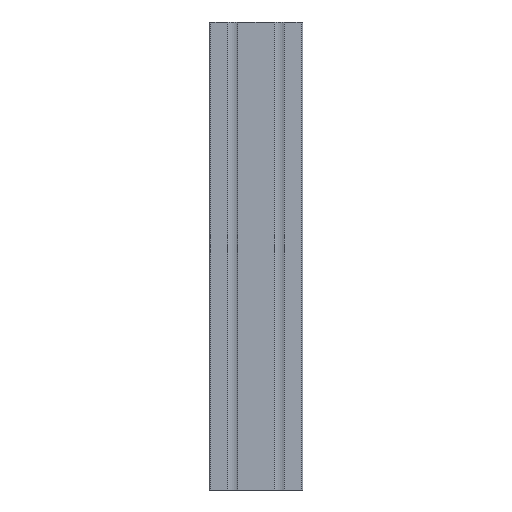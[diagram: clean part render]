
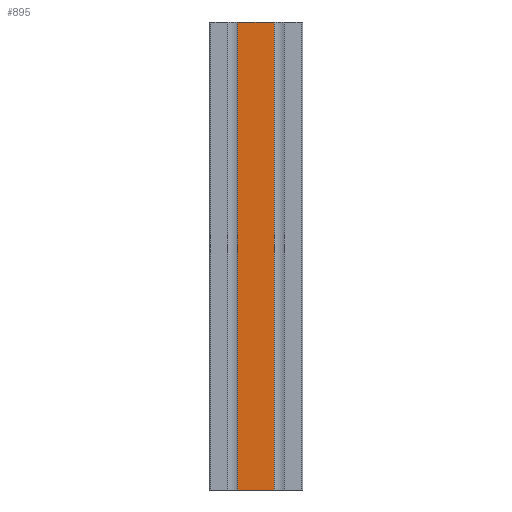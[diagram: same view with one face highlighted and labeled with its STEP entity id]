
A CAD part, left-side view. The second image highlights one B-rep face of the part: STEP entity #895.
In plain terms, the highlighted planar face has unit normal (-1, 0, 0).
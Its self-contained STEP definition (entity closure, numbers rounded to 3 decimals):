
#2 = CARTESIAN_POINT ( 'NONE',  ( -30., -11.75, 150. ) ) ;
#48 = DIRECTION ( 'NONE',  ( 0., -1., 0. ) ) ;
#254 = PLANE ( 'NONE',  #866 ) ;
#397 = CARTESIAN_POINT ( 'NONE',  ( -30., 11.75, 150. ) ) ;
#411 = CARTESIAN_POINT ( 'NONE',  ( -30., -11.75, -150. ) ) ;
#511 = LINE ( 'NONE', #2, #3458 ) ;
#560 = CARTESIAN_POINT ( 'NONE',  ( -30., -11.75, -150. ) ) ;
#866 = AXIS2_PLACEMENT_3D ( 'NONE', #4791, #4246, #3710 ) ;
#895 = ADVANCED_FACE ( 'NONE', ( #4212 ), #254, .F. ) ;
#1159 = DIRECTION ( 'NONE',  ( 0., -1., 0. ) ) ;
#1402 = VECTOR ( 'NONE', #4938, 1000. ) ;
#1573 = LINE ( 'NONE', #560, #3042 ) ;
#1584 = EDGE_CURVE ( 'NONE', #2037, #2872, #4522, .T. ) ;
#1669 = CARTESIAN_POINT ( 'NONE',  ( -30., 0., 150. ) ) ;
#1955 = EDGE_CURVE ( 'NONE', #4746, #2771, #511, .T. ) ;
#2037 = VERTEX_POINT ( 'NONE', #3382 ) ;
#2178 = LINE ( 'NONE', #1669, #4075 ) ;
#2771 = VERTEX_POINT ( 'NONE', #411 ) ;
#2872 = VERTEX_POINT ( 'NONE', #4991 ) ;
#2910 = ORIENTED_EDGE ( 'NONE', *, *, #3112, .F. ) ;
#2935 = CARTESIAN_POINT ( 'NONE',  ( -30., -11.75, 150. ) ) ;
#3042 = VECTOR ( 'NONE', #48, 1000. ) ;
#3112 = EDGE_CURVE ( 'NONE', #2037, #4746, #2178, .T. ) ;
#3166 = ORIENTED_EDGE ( 'NONE', *, *, #1955, .F. ) ;
#3236 = EDGE_CURVE ( 'NONE', #2872, #2771, #1573, .T. ) ;
#3382 = CARTESIAN_POINT ( 'NONE',  ( -30., 11.75, 150. ) ) ;
#3458 = VECTOR ( 'NONE', #4518, 1000. ) ;
#3576 = ORIENTED_EDGE ( 'NONE', *, *, #1584, .T. ) ;
#3710 = DIRECTION ( 'NONE',  ( 0., 0., -1. ) ) ;
#4069 = EDGE_LOOP ( 'NONE', ( #4981, #3166, #2910, #3576 ) ) ;
#4075 = VECTOR ( 'NONE', #1159, 1000. ) ;
#4212 = FACE_OUTER_BOUND ( 'NONE', #4069, .T. ) ;
#4246 = DIRECTION ( 'NONE',  ( 1., 0., 0. ) ) ;
#4518 = DIRECTION ( 'NONE',  ( 0., 0., -1. ) ) ;
#4522 = LINE ( 'NONE', #397, #1402 ) ;
#4746 = VERTEX_POINT ( 'NONE', #2935 ) ;
#4791 = CARTESIAN_POINT ( 'NONE',  ( -30., -11.75, 150. ) ) ;
#4938 = DIRECTION ( 'NONE',  ( 0., 0., -1. ) ) ;
#4981 = ORIENTED_EDGE ( 'NONE', *, *, #3236, .T. ) ;
#4991 = CARTESIAN_POINT ( 'NONE',  ( -30., 11.75, -150. ) ) ;
